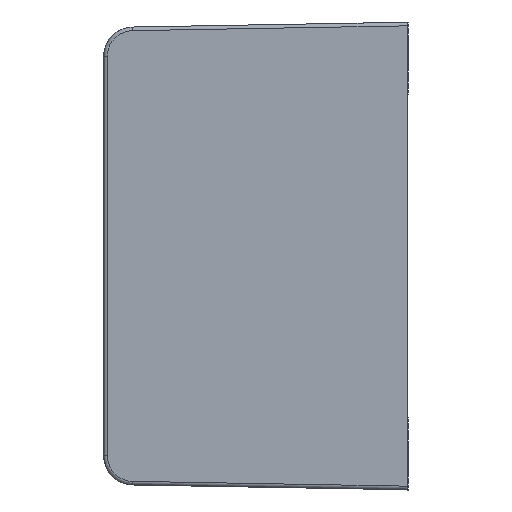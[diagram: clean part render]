
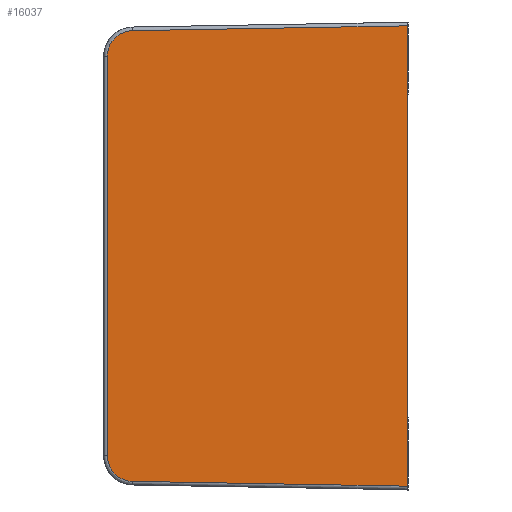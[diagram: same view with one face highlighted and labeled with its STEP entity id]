
A CAD part, left-side view. The second image highlights one B-rep face of the part: STEP entity #16037.
In plain terms, the highlighted planar face has unit normal (-1, 0.018, 0).
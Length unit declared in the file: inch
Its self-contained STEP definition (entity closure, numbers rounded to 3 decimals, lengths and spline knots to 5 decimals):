
#407 = EDGE_LOOP ( 'NONE', ( #25586, #25518, #25380, #25590, #25479, #25561 ) ) ;
#1466 = CARTESIAN_POINT ( 'NONE',  ( -2.5, 0., -1.969 ) ) ;
#1549 = CARTESIAN_POINT ( 'NONE',  ( -2.5, 0., 1.969 ) ) ;
#8522 = AXIS2_PLACEMENT_3D ( 'NONE', #24538, #24544, #24545 ) ;
#8590 = VECTOR ( 'NONE', #24858, 39.37008 ) ;
#9448 =( BOUNDED_CURVE ( )  B_SPLINE_CURVE ( 3, ( #17913, #17918, #17919, #17920 ),
 .UNSPECIFIED., .F., .T. ) 
 B_SPLINE_CURVE_WITH_KNOTS ( ( 4, 4 ),
 ( 3.14159, 4.69494 ),
 .UNSPECIFIED. ) 
 CURVE ( )  GEOMETRIC_REPRESENTATION_ITEM ( )  RATIONAL_B_SPLINE_CURVE ( ( 1., 0.809, 0.809, 1. ) ) 
 REPRESENTATION_ITEM ( '' )  );
#9449 =( BOUNDED_CURVE ( )  B_SPLINE_CURVE ( 3, ( #17917, #17929, #17930, #17931 ),
 .UNSPECIFIED., .F., .T. ) 
 B_SPLINE_CURVE_WITH_KNOTS ( ( 4, 4 ),
 ( 4.72984, 6.28319 ),
 .UNSPECIFIED. ) 
 CURVE ( )  GEOMETRIC_REPRESENTATION_ITEM ( )  RATIONAL_B_SPLINE_CURVE ( ( 1., 0.809, 0.809, 1. ) ) 
 REPRESENTATION_ITEM ( '' )  );
#11301 = CARTESIAN_POINT ( 'NONE',  ( -2.45522, 2.56554, 1.70901 ) ) ;
#11303 = CARTESIAN_POINT ( 'NONE',  ( -2.45897, 2.35036, -1.92798 ) ) ;
#11306 = CARTESIAN_POINT ( 'NONE',  ( -2.45522, 2.56554, -1.70901 ) ) ;
#11307 = CARTESIAN_POINT ( 'NONE',  ( -2.45897, 2.35036, 1.92798 ) ) ;
#12226 = VERTEX_POINT ( 'NONE', #11301 ) ;
#12228 = VERTEX_POINT ( 'NONE', #11303 ) ;
#12231 = VERTEX_POINT ( 'NONE', #11306 ) ;
#12232 = VERTEX_POINT ( 'NONE', #11307 ) ;
#15324 = VECTOR ( 'NONE', #17912, 39.37008 ) ;
#15326 = VECTOR ( 'NONE', #17926, 39.37008 ) ;
#15327 = VECTOR ( 'NONE', #17938, 39.37008 ) ;
#16037 = ADVANCED_FACE ( 'NONE', ( #24542 ), #24536, .T. ) ;
#16253 = EDGE_CURVE ( 'NONE', #19503, #19586, #24841, .T. ) ;
#17910 = LINE ( 'NONE', #17911, #15324 ) ;
#17911 = CARTESIAN_POINT ( 'NONE',  ( -2.49879, 0.06924, -1.9678 ) ) ;
#17912 = DIRECTION ( 'NONE',  ( -0.017, -1., -0.017 ) ) ;
#17913 = CARTESIAN_POINT ( 'NONE',  ( -2.45522, 2.56554, -1.70901 ) ) ;
#17917 = CARTESIAN_POINT ( 'NONE',  ( -2.45897, 2.35036, 1.92798 ) ) ;
#17918 = CARTESIAN_POINT ( 'NONE',  ( -2.45522, 2.56554, -1.83553 ) ) ;
#17919 = CARTESIAN_POINT ( 'NONE',  ( -2.45677, 2.47686, -1.92577 ) ) ;
#17920 = CARTESIAN_POINT ( 'NONE',  ( -2.45897, 2.35036, -1.92798 ) ) ;
#17924 = LINE ( 'NONE', #17925, #15326 ) ;
#17925 = CARTESIAN_POINT ( 'NONE',  ( -2.45522, 2.56554, -1.70901 ) ) ;
#17926 = DIRECTION ( 'NONE',  ( 0., 0., -1. ) ) ;
#17929 = CARTESIAN_POINT ( 'NONE',  ( -2.45677, 2.47686, 1.92577 ) ) ;
#17930 = CARTESIAN_POINT ( 'NONE',  ( -2.45522, 2.56554, 1.83553 ) ) ;
#17931 = CARTESIAN_POINT ( 'NONE',  ( -2.45522, 2.56554, 1.70901 ) ) ;
#17935 = LINE ( 'NONE', #17937, #15327 ) ;
#17937 = CARTESIAN_POINT ( 'NONE',  ( -2.50001, -0.00054, 1.96901 ) ) ;
#17938 = DIRECTION ( 'NONE',  ( 0.017, 1., -0.017 ) ) ;
#19503 = VERTEX_POINT ( 'NONE', #1466 ) ;
#19586 = VERTEX_POINT ( 'NONE', #1549 ) ;
#20808 = EDGE_CURVE ( 'NONE', #12228, #19503, #17910, .T. ) ;
#20810 = EDGE_CURVE ( 'NONE', #12231, #12228, #9448, .T. ) ;
#20812 = EDGE_CURVE ( 'NONE', #12226, #12231, #17924, .T. ) ;
#20813 = EDGE_CURVE ( 'NONE', #12232, #12226, #9449, .T. ) ;
#20815 = EDGE_CURVE ( 'NONE', #19586, #12232, #17935, .T. ) ;
#24536 = PLANE ( 'NONE',  #8522 ) ;
#24538 = CARTESIAN_POINT ( 'NONE',  ( -2.5, 0., 2. ) ) ;
#24542 = FACE_OUTER_BOUND ( 'NONE', #407, .T. ) ;
#24544 = DIRECTION ( 'NONE',  ( -1., 0.017, 0. ) ) ;
#24545 = DIRECTION ( 'NONE',  ( -0.017, -1., 0. ) ) ;
#24825 = CARTESIAN_POINT ( 'NONE',  ( -2.5, 0., 2. ) ) ;
#24841 = LINE ( 'NONE', #24825, #8590 ) ;
#24858 = DIRECTION ( 'NONE',  ( 0., 0., 1. ) ) ;
#25380 = ORIENTED_EDGE ( 'NONE', *, *, #20813, .T. ) ;
#25479 = ORIENTED_EDGE ( 'NONE', *, *, #20810, .T. ) ;
#25518 = ORIENTED_EDGE ( 'NONE', *, *, #20815, .T. ) ;
#25561 = ORIENTED_EDGE ( 'NONE', *, *, #20808, .T. ) ;
#25586 = ORIENTED_EDGE ( 'NONE', *, *, #16253, .T. ) ;
#25590 = ORIENTED_EDGE ( 'NONE', *, *, #20812, .T. ) ;
